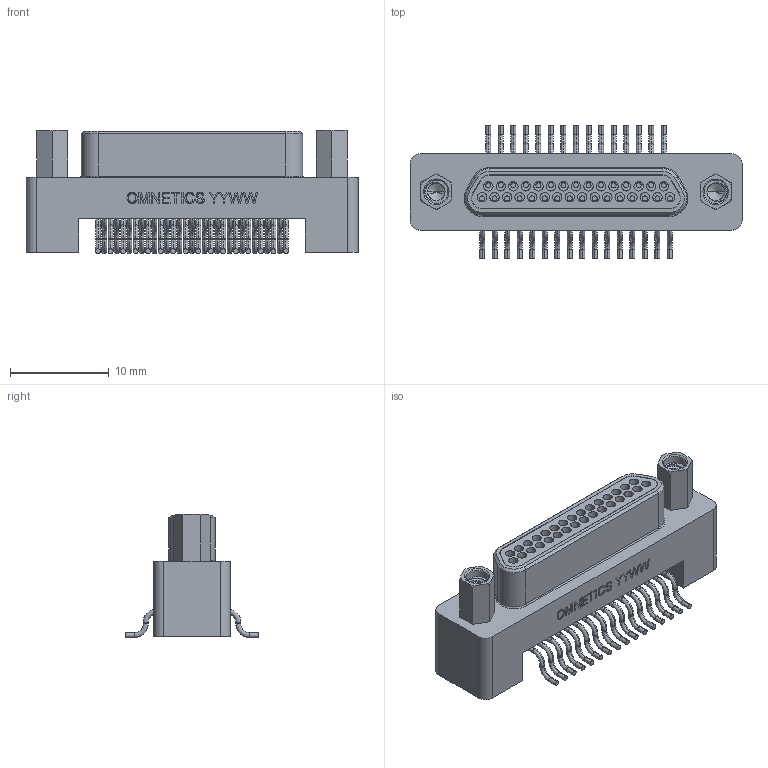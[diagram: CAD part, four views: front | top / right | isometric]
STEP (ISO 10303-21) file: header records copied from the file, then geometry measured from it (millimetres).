
FILE_DESCRIPTION (( 'STEP AP214' ), '1' );
FILE_NAME ('A98701-031 REV A.STEP', '2021-01-22T20:14:14', ( '' ), ( '' ), 'SwSTEP 2.0', 'SolidWorks 2019', '' );
FILE_SCHEMA (( 'AUTOMOTIVE_DESIGN' ));
Length unit declared in the file: inch
Products named in the file (1): A98701-031 REV A
Bounding box: 33.66 x 13.51 x 12.51 mm (x, y, z)
Volume: 1653.5 mm3; surface area: 3519.4 mm2
Topology: 1 solids, 4 shells, 1309 faces, 2965 edges, 1811 vertices
Faces by surface type: cylinder 599, plane 316, torus 191, cone 129, bspline 74
Entity records: 63962 total; most frequent: CARTESIAN_POINT 18100, DIRECTION 6150, ORIENTED_EDGE 5910, EDGE_CURVE 2955, AXIS2_PLACEMENT_3D 2489, VERTEX_POINT 1811, EDGE_LOOP 1470, UNCERTAINTY_MEASURE_WITH_UNIT 1312
